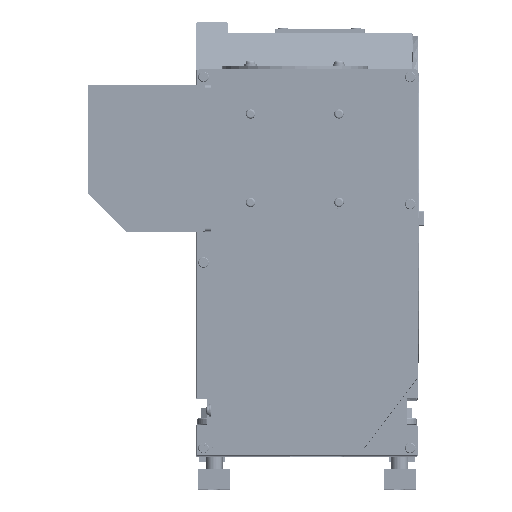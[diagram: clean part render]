
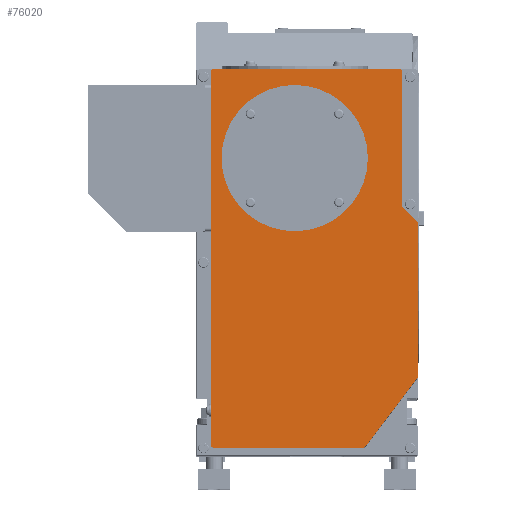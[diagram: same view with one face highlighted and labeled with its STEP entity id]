
A CAD part, top view. The second image highlights one B-rep face of the part: STEP entity #76020.
In plain terms, the highlighted planar face has unit normal (0, 0, 1).
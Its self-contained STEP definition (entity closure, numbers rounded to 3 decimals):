
#3672 = DIRECTION ( 'NONE',  ( 0., 0., 1. ) ) ;
#3953 = LINE ( 'NONE', #91533, #145366 ) ;
#5940 = CARTESIAN_POINT ( 'NONE',  ( 23., 280., 247. ) ) ;
#6235 = EDGE_CURVE ( 'NONE', #146980, #6975, #3953, .T. ) ;
#6895 = ORIENTED_EDGE ( 'NONE', *, *, #151076, .T. ) ;
#6975 = VERTEX_POINT ( 'NONE', #68919 ) ;
#7154 = VECTOR ( 'NONE', #149737, 1000. ) ;
#9176 = CARTESIAN_POINT ( 'NONE',  ( 206., 219.172, 247. ) ) ;
#10097 = VERTEX_POINT ( 'NONE', #45278 ) ;
#13238 = EDGE_CURVE ( 'NONE', #20930, #149521, #84392, .T. ) ;
#17592 = DIRECTION ( 'NONE',  ( -1., 0., 0. ) ) ;
#18057 = CARTESIAN_POINT ( 'NONE',  ( 157.006, 9., 247. ) ) ;
#18207 = CARTESIAN_POINT ( 'NONE',  ( 208., 219.172, 247. ) ) ;
#20305 = CIRCLE ( 'NONE', #111811, 2. ) ;
#20930 = VERTEX_POINT ( 'NONE', #130077 ) ;
#21248 = EDGE_CURVE ( 'NONE', #10097, #106879, #138399, .T. ) ;
#26132 = DIRECTION ( 'NONE',  ( 0., 0., 1. ) ) ;
#27104 = CIRCLE ( 'NONE', #136974, 2. ) ;
#28270 = CIRCLE ( 'NONE', #135460, 2. ) ;
#29057 = DIRECTION ( 'NONE',  ( 1., 0., 0. ) ) ;
#30232 = EDGE_LOOP ( 'NONE', ( #32763, #106049, #33893, #135226, #72210, #70552, #125442, #33370, #74711, #79930, #6895, #129922, #75238, #102333 ) ) ;
#32380 = CARTESIAN_POINT ( 'NONE',  ( 15., 362., 247. ) ) ;
#32605 = CARTESIAN_POINT ( 'NONE',  ( 193., 362., 247. ) ) ;
#32763 = ORIENTED_EDGE ( 'NONE', *, *, #21248, .T. ) ;
#33370 = ORIENTED_EDGE ( 'NONE', *, *, #91543, .T. ) ;
#33893 = ORIENTED_EDGE ( 'NONE', *, *, #74108, .T. ) ;
#35672 = VECTOR ( 'NONE', #41913, 1000. ) ;
#36195 = CARTESIAN_POINT ( 'NONE',  ( 193.586, 234.414, 247. ) ) ;
#36711 = AXIS2_PLACEMENT_3D ( 'NONE', #148167, #73628, #97405 ) ;
#41913 = DIRECTION ( 'NONE',  ( 0., 1., 0. ) ) ;
#42151 = EDGE_CURVE ( 'NONE', #136638, #10097, #105296, .T. ) ;
#42571 = DIRECTION ( 'NONE',  ( 0., 0., -1. ) ) ;
#42905 = CARTESIAN_POINT ( 'NONE',  ( 15., 9., 247. ) ) ;
#43869 = DIRECTION ( 'NONE',  ( 1., 0., 0. ) ) ;
#44307 = AXIS2_PLACEMENT_3D ( 'NONE', #112548, #140325, #138729 ) ;
#45278 = CARTESIAN_POINT ( 'NONE',  ( 157.006, 7., 247. ) ) ;
#48181 = CIRCLE ( 'NONE', #61249, 2. ) ;
#49630 = CARTESIAN_POINT ( 'NONE',  ( 193., 235.828, 247. ) ) ;
#49834 = LINE ( 'NONE', #99788, #7154 ) ;
#52750 = VERTEX_POINT ( 'NONE', #55551 ) ;
#53874 = DIRECTION ( 'NONE',  ( -1., 0., 0. ) ) ;
#55488 = DIRECTION ( 'NONE',  ( 1., 0., 0. ) ) ;
#55551 = CARTESIAN_POINT ( 'NONE',  ( 208., 219.172, 247. ) ) ;
#57468 = DIRECTION ( 'NONE',  ( 0., 0., 1. ) ) ;
#59639 = EDGE_CURVE ( 'NONE', #152035, #65688, #125077, .T. ) ;
#61249 = AXIS2_PLACEMENT_3D ( 'NONE', #9176, #57468, #109069 ) ;
#61270 = CARTESIAN_POINT ( 'NONE',  ( 193., 362., 247. ) ) ;
#61800 = DIRECTION ( 'NONE',  ( 0., 0., -1. ) ) ;
#65273 = AXIS2_PLACEMENT_3D ( 'NONE', #69423, #157855, #55488 ) ;
#65688 = VERTEX_POINT ( 'NONE', #154201 ) ;
#67924 = CIRCLE ( 'NONE', #154338, 2. ) ;
#67962 = FACE_OUTER_BOUND ( 'NONE', #30232, .T. ) ;
#68392 = ORIENTED_EDGE ( 'NONE', *, *, #114425, .F. ) ;
#68919 = CARTESIAN_POINT ( 'NONE',  ( 15., 364., 247. ) ) ;
#69423 = CARTESIAN_POINT ( 'NONE',  ( 92., 280., 247. ) ) ;
#70509 = DIRECTION ( 'NONE',  ( -0.707, 0.707, 0. ) ) ;
#70552 = ORIENTED_EDGE ( 'NONE', *, *, #13238, .T. ) ;
#71018 = DIRECTION ( 'NONE',  ( 0., 1., 0. ) ) ;
#71595 = DIRECTION ( 'NONE',  ( -1., 0., 0. ) ) ;
#72210 = ORIENTED_EDGE ( 'NONE', *, *, #133140, .T. ) ;
#73371 = EDGE_CURVE ( 'NONE', #114097, #52750, #156544, .T. ) ;
#73628 = DIRECTION ( 'NONE',  ( 0., 0., 1. ) ) ;
#74108 = EDGE_CURVE ( 'NONE', #133655, #114097, #96051, .T. ) ;
#74711 = ORIENTED_EDGE ( 'NONE', *, *, #118622, .T. ) ;
#75238 = ORIENTED_EDGE ( 'NONE', *, *, #146638, .T. ) ;
#76020 = ADVANCED_FACE ( 'NONE', ( #117933, #67962 ), #90908, .F. ) ;
#79930 = ORIENTED_EDGE ( 'NONE', *, *, #6235, .T. ) ;
#81099 = ORIENTED_EDGE ( 'NONE', *, *, #91323, .F. ) ;
#81729 = DIRECTION ( 'NONE',  ( 1., 0., 0. ) ) ;
#83618 = CIRCLE ( 'NONE', #65273, 69. ) ;
#84392 = LINE ( 'NONE', #158932, #87290 ) ;
#85559 = CARTESIAN_POINT ( 'NONE',  ( 195., 235.828, 247. ) ) ;
#85785 = CARTESIAN_POINT ( 'NONE',  ( 13., 9., 247. ) ) ;
#87290 = VECTOR ( 'NONE', #70509, 1000. ) ;
#90908 = PLANE ( 'NONE',  #93549 ) ;
#91323 = EDGE_CURVE ( 'NONE', #126821, #112209, #154257, .T. ) ;
#91533 = CARTESIAN_POINT ( 'NONE',  ( 15., 364., 247. ) ) ;
#91543 = EDGE_CURVE ( 'NONE', #111509, #142065, #93160, .T. ) ;
#93160 = LINE ( 'NONE', #32605, #143841 ) ;
#93549 = AXIS2_PLACEMENT_3D ( 'NONE', #18057, #42571, #94180 ) ;
#94180 = DIRECTION ( 'NONE',  ( -1., 0., 0. ) ) ;
#96051 = CIRCLE ( 'NONE', #98620, 2. ) ;
#97405 = DIRECTION ( 'NONE',  ( 1., 0., 0. ) ) ;
#98008 = EDGE_LOOP ( 'NONE', ( #68392, #81099 ) ) ;
#98620 = AXIS2_PLACEMENT_3D ( 'NONE', #130570, #156785, #17592 ) ;
#99714 = DIRECTION ( 'NONE',  ( 0., -1., 0. ) ) ;
#99788 = CARTESIAN_POINT ( 'NONE',  ( 207.594, 72.464, 247. ) ) ;
#102333 = ORIENTED_EDGE ( 'NONE', *, *, #42151, .T. ) ;
#105296 = LINE ( 'NONE', #156059, #110326 ) ;
#106049 = ORIENTED_EDGE ( 'NONE', *, *, #135828, .T. ) ;
#106879 = VERTEX_POINT ( 'NONE', #123757 ) ;
#109069 = DIRECTION ( 'NONE',  ( -1., 0., 0. ) ) ;
#110102 = DIRECTION ( 'NONE',  ( 0., 0., 1. ) ) ;
#110326 = VECTOR ( 'NONE', #43869, 1000. ) ;
#111509 = VERTEX_POINT ( 'NONE', #49630 ) ;
#111628 = CARTESIAN_POINT ( 'NONE',  ( 191., 364., 247. ) ) ;
#111811 = AXIS2_PLACEMENT_3D ( 'NONE', #32380, #110102, #71595 ) ;
#111894 = CARTESIAN_POINT ( 'NONE',  ( 13., 362., 247. ) ) ;
#112209 = VERTEX_POINT ( 'NONE', #5940 ) ;
#112548 = CARTESIAN_POINT ( 'NONE',  ( 157.006, 9., 247. ) ) ;
#113334 = CARTESIAN_POINT ( 'NONE',  ( 208., 73.672, 247. ) ) ;
#114097 = VERTEX_POINT ( 'NONE', #113334 ) ;
#114425 = EDGE_CURVE ( 'NONE', #112209, #126821, #83618, .T. ) ;
#116112 = EDGE_CURVE ( 'NONE', #149521, #111509, #67924, .T. ) ;
#117342 = CARTESIAN_POINT ( 'NONE',  ( 161., 280., 247. ) ) ;
#117933 = FACE_BOUND ( 'NONE', #98008, .T. ) ;
#118622 = EDGE_CURVE ( 'NONE', #142065, #146980, #27104, .T. ) ;
#123757 = CARTESIAN_POINT ( 'NONE',  ( 158.6, 7.792, 247. ) ) ;
#124767 = CARTESIAN_POINT ( 'NONE',  ( 15., 7., 247. ) ) ;
#125077 = LINE ( 'NONE', #85785, #144786 ) ;
#125442 = ORIENTED_EDGE ( 'NONE', *, *, #116112, .T. ) ;
#126821 = VERTEX_POINT ( 'NONE', #117342 ) ;
#128976 = CARTESIAN_POINT ( 'NONE',  ( 207.594, 72.464, 247. ) ) ;
#129922 = ORIENTED_EDGE ( 'NONE', *, *, #59639, .T. ) ;
#130077 = CARTESIAN_POINT ( 'NONE',  ( 207.414, 220.586, 247. ) ) ;
#130570 = CARTESIAN_POINT ( 'NONE',  ( 206., 73.672, 247. ) ) ;
#133140 = EDGE_CURVE ( 'NONE', #52750, #20930, #48181, .T. ) ;
#133655 = VERTEX_POINT ( 'NONE', #128976 ) ;
#135226 = ORIENTED_EDGE ( 'NONE', *, *, #73371, .T. ) ;
#135460 = AXIS2_PLACEMENT_3D ( 'NONE', #42905, #3672, #29057 ) ;
#135828 = EDGE_CURVE ( 'NONE', #106879, #133655, #49834, .T. ) ;
#136638 = VERTEX_POINT ( 'NONE', #124767 ) ;
#136974 = AXIS2_PLACEMENT_3D ( 'NONE', #140679, #26132, #139900 ) ;
#138399 = CIRCLE ( 'NONE', #44307, 2. ) ;
#138729 = DIRECTION ( 'NONE',  ( -1., 0., 0. ) ) ;
#139900 = DIRECTION ( 'NONE',  ( -1., 0., 0. ) ) ;
#140325 = DIRECTION ( 'NONE',  ( 0., 0., 1. ) ) ;
#140679 = CARTESIAN_POINT ( 'NONE',  ( 191., 362., 247. ) ) ;
#142065 = VERTEX_POINT ( 'NONE', #61270 ) ;
#143841 = VECTOR ( 'NONE', #71018, 1000. ) ;
#144786 = VECTOR ( 'NONE', #99714, 1000. ) ;
#145366 = VECTOR ( 'NONE', #53874, 1000. ) ;
#146638 = EDGE_CURVE ( 'NONE', #65688, #136638, #28270, .T. ) ;
#146980 = VERTEX_POINT ( 'NONE', #111628 ) ;
#148167 = CARTESIAN_POINT ( 'NONE',  ( 92., 280., 247. ) ) ;
#149521 = VERTEX_POINT ( 'NONE', #36195 ) ;
#149737 = DIRECTION ( 'NONE',  ( 0.604, 0.797, 0. ) ) ;
#151076 = EDGE_CURVE ( 'NONE', #6975, #152035, #20305, .T. ) ;
#152035 = VERTEX_POINT ( 'NONE', #111894 ) ;
#154201 = CARTESIAN_POINT ( 'NONE',  ( 13., 9., 247. ) ) ;
#154257 = CIRCLE ( 'NONE', #36711, 69. ) ;
#154338 = AXIS2_PLACEMENT_3D ( 'NONE', #85559, #61800, #81729 ) ;
#156059 = CARTESIAN_POINT ( 'NONE',  ( 157.006, 7., 247. ) ) ;
#156544 = LINE ( 'NONE', #18207, #35672 ) ;
#156785 = DIRECTION ( 'NONE',  ( 0., 0., 1. ) ) ;
#157855 = DIRECTION ( 'NONE',  ( 0., 0., 1. ) ) ;
#158932 = CARTESIAN_POINT ( 'NONE',  ( 193.586, 234.414, 247. ) ) ;
